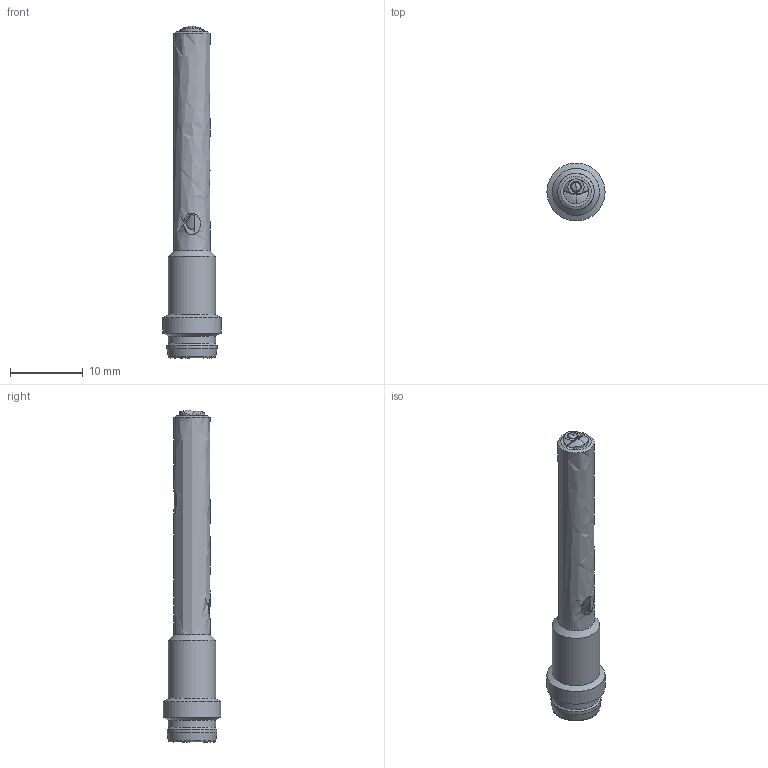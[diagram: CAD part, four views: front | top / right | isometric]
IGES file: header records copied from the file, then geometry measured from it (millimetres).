
Global section: file name: 153-13581_FT 05 R-PSL-M3; native system: Autodesk Inventor 2018; preprocessor: unknown; author: sgonin; date: 20190227.092127; units: millimetre
Bounding box: 8 x 7.99 x 45.76 mm (x, y, z)
Volume: 1009.2 mm3; surface area: 1011.4 mm2
Topology: 1 solids, 1 shells, 53 faces, 140 edges, 93 vertices
Faces by surface type: bspline 53
